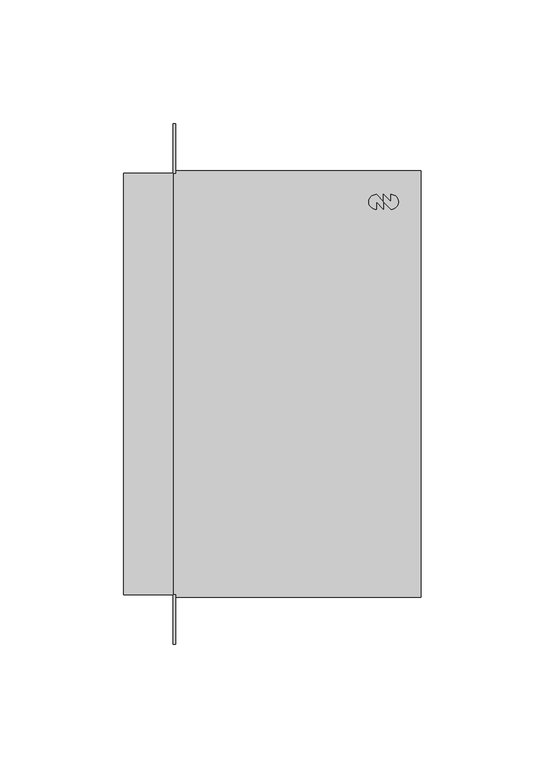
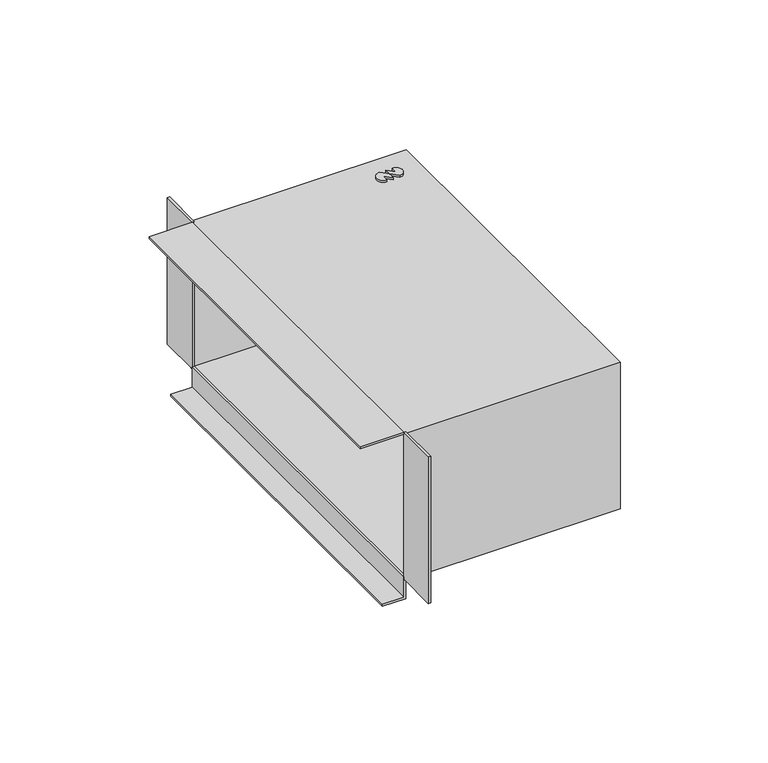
"""IFC4 building model written with IfcOpenShell, lengths in millimetres: duct fitting geometry, NLRS_57_DUF_UN_instortkanaal-rechthoekig-zij-aansluitstuk_LT_velu : VIK rechte zijaansluiting."""

from ifc_helpers import new_model, si_unit, point, frame, frame_2d, origin, place, context, project, spatial, polyline, circle_curve, trimmed, segment, composite_curve, outline, extrude, source, transform, mapped, element, save


def duct_fitting_b807a0b0(model_context):
    return source(origin(), model_context, "Body", "SweptSolid", [
        extrude(outline(composite_curve([segment(trimmed(circle_curve(frame_2d((88.0, 73.5)), 3.0), [point((88.0, 76.5))], [point((88.0, 70.5))], False, "CARTESIAN"), True, "CONTINUOUS"), segment(polyline([(88.0, 70.5), (85.0, 73.5), (85.0, 76.5), (88.0, 73.5), (88.0, 76.5)]), True, "CONTINUOUS")], self_intersect=False)), frame((0.0, 0.0, 36.0), z_axis=(0.0, 0.0, 1.0), x_axis=(1.0, 0.0, 0.0)), (0.0, 0.0, 1.0), 1.0),
        extrude(outline(composite_curve([segment(trimmed(circle_curve(frame_2d((82.0, 73.5)), 3.0), [point((82.0, 70.5))], [point((82.0, 76.5))], False, "CARTESIAN"), True, "CONTINUOUS"), segment(polyline([(82.0, 76.5), (85.0, 73.5), (85.0, 70.5), (82.0, 73.5), (82.0, 70.5)]), True, "CONTINUOUS")], self_intersect=False)), frame((0.0, 0.0, 36.0), z_axis=(0.0, 0.0, 1.0), x_axis=(1.0, 0.0, 0.0)), (0.0, 0.0, 1.0), 1.0),
        extrude(outline(composite_curve([segment(trimmed(circle_curve(frame_2d((88.0, 73.5)), 3.0), [point((88.0, 76.5))], [point((88.0, 70.5))], False, "CARTESIAN"), True, "CONTINUOUS"), segment(polyline([(88.0, 70.5), (85.0, 73.5), (85.0, 76.5), (88.0, 73.5), (88.0, 76.5)]), True, "CONTINUOUS")], self_intersect=False)), frame((0.0, 0.0, -37.0), z_axis=(0.0, 0.0, 1.0), x_axis=(1.0, 0.0, 0.0)), (0.0, 0.0, 1.0), 1.0),
        extrude(outline(composite_curve([segment(trimmed(circle_curve(frame_2d((82.0, 73.5)), 3.0), [point((82.0, 70.5))], [point((82.0, 76.5))], False, "CARTESIAN"), True, "CONTINUOUS"), segment(polyline([(82.0, 76.5), (85.0, 73.5), (85.0, 70.5), (82.0, 73.5), (82.0, 70.5)]), True, "CONTINUOUS")], self_intersect=False)), frame((0.0, 0.0, -37.0), z_axis=(0.0, 0.0, 1.0), x_axis=(1.0, 0.0, 0.0)), (0.0, 0.0, 1.0), 1.0),
        extrude(outline(polyline([(-45.0, 0.0), (-45.0, -10.0), (-46.0, -10.0), (-46.0, 1.0), (-35.0, 1.0), (-35.0, 0.0), (-45.0, 0.0)])), frame((0.0, -85.0, 0.0), z_axis=(0.0, 1.0, 0.0), x_axis=(0.0, 0.0, 1.0)), (0.0, 0.0, 1.0), 170.0),
        extrude(outline(polyline([(0.0, 85.0), (0.0, -85.0), (-20.0, -85.0), (-20.0, 85.0), (0.0, 85.0)])), frame((0.0, 0.0, 35.0), z_axis=(0.0, 0.0, 1.0), x_axis=(1.0, 0.0, 0.0)), (0.0, 0.0, 1.0), 1.0),
        extrude(outline(polyline([(1.0, 105.0), (1.0, 85.0), (0.0, 85.0), (0.0, 105.0), (1.0, 105.0)])), frame((0.0, 0.0, -36.0), z_axis=(0.0, 0.0, 1.0), x_axis=(1.0, 0.0, 0.0)), (0.0, 0.0, 1.0), 72.0),
        extrude(outline(polyline([(1.0, -85.0), (1.0, -105.0), (0.0, -105.0), (0.0, -85.0), (1.0, -85.0)])), frame((0.0, 0.0, -36.0), z_axis=(0.0, 0.0, 1.0), x_axis=(1.0, 0.0, 0.0)), (0.0, 0.0, 1.0), 72.0),
        extrude(outline(polyline([(-86.0, 36.0), (86.0, 36.0), (86.0, -36.0), (-86.0, -36.0), (-86.0, 36.0)]), holes=[polyline([(-85.0, 35.0), (-85.0, -35.0), (85.0, -35.0), (85.0, 35.0), (-85.0, 35.0)])]), frame((0.0, 0.0, 0.0), z_axis=(1.0, 0.0, 0.0), x_axis=(0.0, 1.0, 0.0)), (0.0, 0.0, 1.0), 100.0),
    ])


if __name__ == "__main__":
    model = new_model("IFC4")
    model_context = context("Model", 3, world=origin())
    ifc_project = project(units=[si_unit("LENGTHUNIT", "METRE", prefix="MILLI")], contexts=[model_context])
    site = spatial("IfcSite", under=ifc_project)
    building = spatial("IfcBuilding", under=site)
    placement = place(None, origin())
    duct_fitting_shape = duct_fitting_b807a0b0(model_context)
    element("IfcDuctFitting", 1, ObjectType="NLRS_57_DUF_UN_instortkanaal-rechthoekig-zij-aansluitstuk_LT_velu : VIK rechte zijaansluiting", at=placement, inside=building, context=model_context, shape_type="MappedRepresentation", body=[
        mapped(duct_fitting_shape, transform((0.0, 0.0, 0.0), x_axis=(1.0, 0.0, 0.0), y_axis=(0.0, 1.0, 0.0), z_axis=(0.0, 0.0, 1.0))),
    ])
    save(model, "model.ifc")
